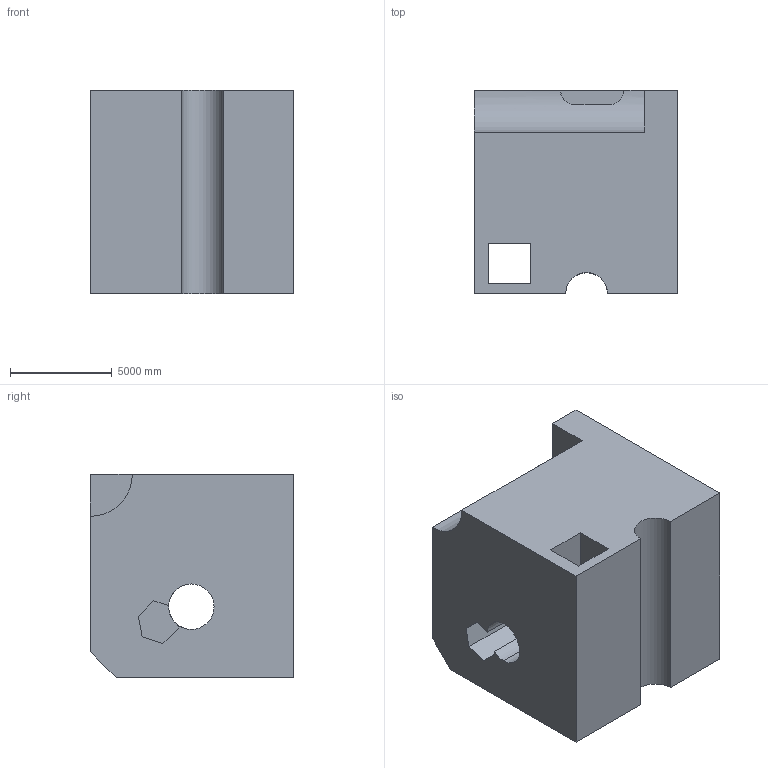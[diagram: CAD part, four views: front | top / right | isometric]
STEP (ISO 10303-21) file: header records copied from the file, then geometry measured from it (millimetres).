
FILE_DESCRIPTION (( 'STEP AP203' ), '1' );
FILE_NAME ('711.STEP', '2022-08-04T15:43:35', ( 'user' ), ( '' ), 'SwSTEP 2.0', 'SolidWorks 2021', '' );
FILE_SCHEMA (( 'CONFIG_CONTROL_DESIGN' ));
Length unit declared in the file: centimetre
Products named in the file (1): 711
Bounding box: 10000 x 10000 x 10000 mm (x, y, z)
Volume: 841720327067.2 mm3; surface area: 772246130.3 mm2
Topology: 1 solids, 1 shells, 35 faces, 96 edges, 64 vertices
Faces by surface type: plane 29, cylinder 6
Entity records: 1293 total; most frequent: CARTESIAN_POINT 306, ORIENTED_EDGE 192, DIRECTION 178, EDGE_CURVE 96, VECTOR 82, LINE 82, VERTEX_POINT 64, AXIS2_PLACEMENT_3D 48
